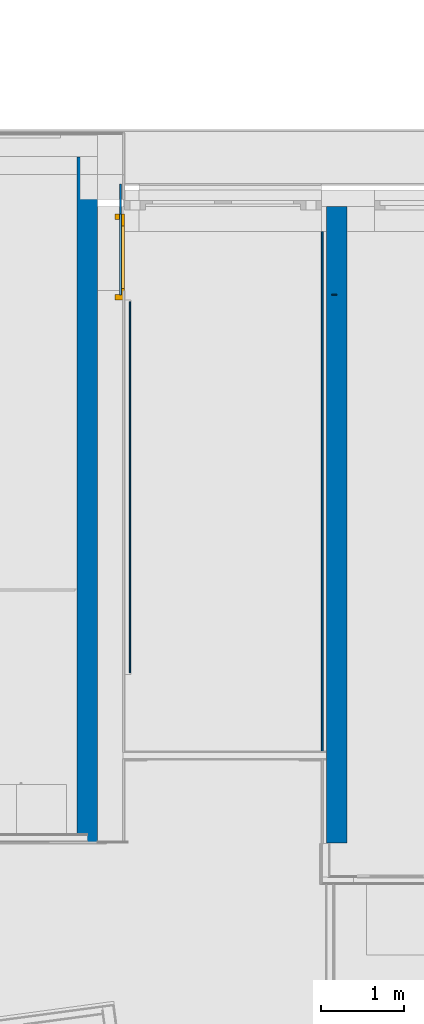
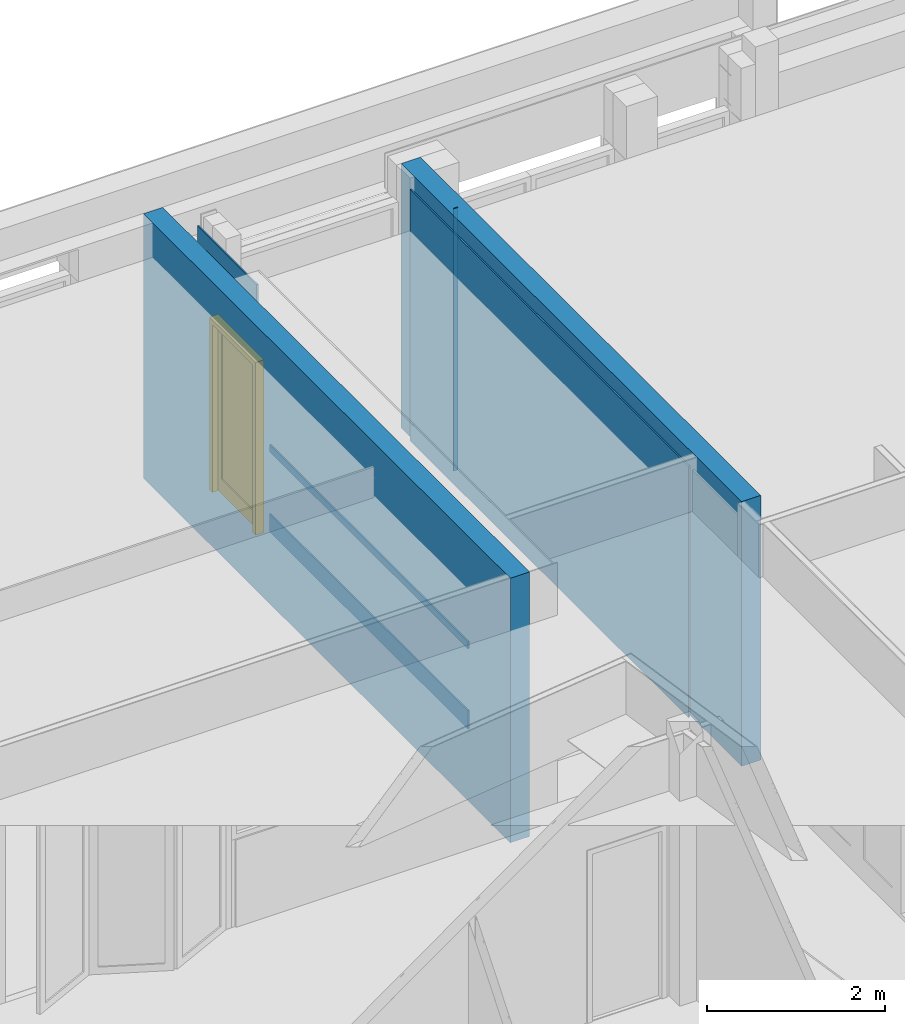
# One storey, part 18 of 167: 7 walls, 1 door, 1 opening.
"""IFC2X3 building model written with IfcOpenShell, lengths in millimetres."""

from ifc_helpers import new_model, entity, si_unit, converted_unit, derived_unit, money_unit, direction, frame, origin_with_axes, place, context, subcontext, project, spatial, open_shell, faceted_brep, surface_model, material, type_object, element, fill, save


model = new_model("IFC2X3")

# Units and contexts
model_context = context("Model", 3, precision=0.01, world=origin_with_axes(), true_north=direction((0.0, 1.0)))
plan_context = context("Plan", 3, precision=0.01, world=origin_with_axes(), true_north=direction((0.0, 1.0)))
body_context = subcontext(model_context, "Body", "Model", "MODEL_VIEW")
ifc_project = project(units=[si_unit("LENGTHUNIT", "METRE", prefix="MILLI"), si_unit("AREAUNIT", "SQUARE_METRE"), si_unit("VOLUMEUNIT", "CUBIC_METRE"), converted_unit("PLANEANGLEUNIT", "DEGREE", entity("IfcPlaneAngleMeasure", 0.0174532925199), si_unit("PLANEANGLEUNIT", "RADIAN"), dimensions=[0, 0, 0, 0, 0, 0, 0]), si_unit("SOLIDANGLEUNIT", "STERADIAN"), money_unit("EUR"), converted_unit("TIMEUNIT", "Year", entity("IfcTimeMeasure", 31556926.0), si_unit("TIMEUNIT", "SECOND"), dimensions=[0, 0, 1, 0, 0, 0, 0]), si_unit("MASSUNIT", "GRAM", prefix="KILO"), si_unit("THERMODYNAMICTEMPERATUREUNIT", "DEGREE_CELSIUS"), si_unit("LUMINOUSINTENSITYUNIT", "LUMEN"), si_unit("ENERGYUNIT", "JOULE", prefix="MEGA"), derived_unit("THERMALCONDUCTANCEUNIT", [(si_unit("POWERUNIT", "WATT"), 1), (si_unit("LENGTHUNIT", "METRE"), -1), (si_unit("THERMODYNAMICTEMPERATUREUNIT", "KELVIN"), -1)]), derived_unit("SPECIFICHEATCAPACITYUNIT", [(si_unit("ENERGYUNIT", "JOULE"), 1), (si_unit("MASSUNIT", "GRAM", prefix="KILO"), -1), (si_unit("THERMODYNAMICTEMPERATUREUNIT", "KELVIN"), -1)]), derived_unit("MASSDENSITYUNIT", [(si_unit("MASSUNIT", "GRAM", prefix="KILO"), 1), (si_unit("VOLUMEUNIT", "CUBIC_METRE"), -1)])], contexts=[model_context, plan_context])

# Site, building, storey
site_placement = place(None, origin_with_axes())
site = spatial("IfcSite", under=ifc_project, at=site_placement, Name="Site", CompositionType="ELEMENT")
building_placement = place(site_placement, origin_with_axes())
building = spatial("IfcBuilding", under=site, at=building_placement, Name="Naam gebouw", CompositionType="ELEMENT")
storey_placement = place(building_placement, origin_with_axes())
storey = spatial("IfcBuildingStorey", under=building, at=storey_placement, Name="Begane grond", CompositionType="ELEMENT", Elevation=0.0)

# Wall
ifc_material_1 = material(Name="_TenW_21_Hout betimmering")
wall_type_1 = type_object("IfcWallType", Name="_TenW_22_Spouwmuur ht-150-kz RC 0 60", PredefinedType="NOTDEFINED")
wall_1_placement = place(storey_placement, frame((24475.0000092, 49800.0, -100.0), z_axis=(0.0, 0.0, 1.0), x_axis=(0.0, -1.0, 0.0)))
element("IfcWall", 1, at=wall_1_placement, inside=storey, type_object=wall_type_1, material=ifc_material_1, Name="21_Wand_Wand-x", context=body_context, shape_type="Brep", body=[
    faceted_brep([(6562.5, -40.0, 3480.00000224), (6562.5, -40.0, 30.0), (300.0, -40.0, 30.0), (300.0, -40.0, 3480.00000224), (6562.5, -60.0, 3480.00000224), (6562.5, -60.0, 30.0), (300.0, -60.0, 30.0), (300.0, -60.0, 3480.00000224)], [[[0, 1, 2, 3]], [[4, 5, 1, 0]], [[5, 6, 2, 1]], [[3, 2, 6, 7]], [[4, 0, 3, 7]], [[7, 6, 5, 4]]]),
])

# Wall, opening, door
wall_2_placement = place(storey_placement, frame((22049.0, 49800.0, -100.0), z_axis=(0.0, 0.0, 1.0), x_axis=(0.0, -1.0, 0.0)))
wall_2 = element("IfcWall", 2, at=wall_2_placement, inside=storey, type_object=wall_type_1, material=ifc_material_1, Name="21_Wand_Wand-x", context=body_context, shape_type="Brep", body=[
    faceted_brep([(90.0, -40.0, 102.0), (1059.97864822, -40.0, 102.0), (1059.97864822, -40.0, 30.0), (0.0, -40.0, 30.0), (0.0, -40.0, 0.0), (-274.0, -40.0, 0.0), (-274.0, -40.0, 3480.00000224), (1059.97864822, -40.0, 3480.00000224), (1059.97864822, -40.0, 2469.0), (90.0, -40.0, 2469.0), (90.0, -60.0, 102.0), (1059.97864822, -60.0, 102.0), (1059.97864822, -60.0, 30.0), (0.0, -60.0, 30.0), (0.0, -60.0, 0.0), (-274.0, -60.0, 0.0), (-274.0, -60.0, 3480.00000224), (1059.97864822, -60.0, 3480.00000224), (1059.97864822, -60.0, 2469.0), (90.0, -60.0, 2469.0)], [[[0, 1, 2, 3, 4, 5, 6, 7, 8, 9]], [[1, 0, 10, 11]], [[1, 11, 12, 2]], [[3, 2, 12, 13]], [[4, 3, 13, 14]], [[4, 14, 15, 5]], [[15, 16, 6, 5]], [[7, 6, 16, 17]], [[18, 8, 7, 17]], [[9, 8, 18, 19]], [[0, 9, 19, 10]], [[19, 18, 17, 16, 15, 14, 13, 12, 11, 10]]]),
])
opening_placement = place(wall_2_placement, frame((607.0, 0.0, 102.0), z_axis=(0.0, 0.0, 1.0), x_axis=(1.0, 0.0, 0.0)))
opening = element("IfcOpeningElement", 3, at=opening_placement, cuts=wall_2, Name="32_Deur_Hi-01", context=body_context, shape_type="Brep", body=[
    faceted_brep([(-517.0, 120.0, 2367.0), (-517.0, 120.0, 0.0), (-517.0, -60.0, 0.0), (-517.0, -60.0, 2367.0), (517.0, 120.0, 2367.0), (517.0, 120.0, 0.0), (517.0, -60.0, 0.0), (517.0, -60.0, 2367.0)], [[[0, 1, 2, 3]], [[0, 4, 5, 1]], [[1, 5, 6, 2]], [[3, 2, 6, 7]], [[4, 0, 3, 7]], [[5, 4, 7, 6]]]),
])
door_style = type_object("IfcDoorStyle", Name="D1 24", ConstructionType="NOTDEFINED", OperationType="SINGLE_SWING_LEFT", ParameterTakesPrecedence=False, Sizeable=False)
door_placement = place(opening_placement, frame((-517.0, 0.0, 0.0), z_axis=(0.0, 0.0, 1.0), x_axis=(1.0, 0.0, 0.0)))
door = element("IfcDoor", 4, at=door_placement, inside=storey, type_object=door_style, Name="32_Deur_Hi-01", ObjectType="DOOR", OverallHeight=2367.0, OverallWidth=1034.0, context=body_context, shape_type="SurfaceModel", body=[
    faceted_brep([(967.0, -40.0, 0.0), (967.0, -114.0, 0.0), (967.0, -114.0, 2300.0), (967.0, -40.0, 2300.0), (992.0, -40.0, 0.0), (992.0, 0.0, 0.0), (1034.0, 0.0, 0.0), (1034.0, -114.0, 0.0), (1034.0, -114.0, 2300.0), (992.0, -40.0, 2300.0), (1034.0, 0.0, 2300.0), (992.0, 0.0, 2300.0)], [[[0, 1, 2, 3]], [[4, 5, 6, 7, 1, 0]], [[1, 7, 8, 2]], [[9, 3, 2, 8, 10, 11]], [[9, 4, 0, 3]], [[11, 5, 4, 9]], [[11, 10, 6, 5]], [[6, 10, 8, 7]]]),
    faceted_brep([(42.0, -40.0, 2300.0), (42.0, 0.0, 2300.0), (0.0, 0.0, 2300.0), (0.0, -114.0, 2300.0), (67.0, -114.0, 2300.0), (67.0, -40.0, 2300.0), (42.0, -40.0, 0.0), (42.0, 0.0, 0.0), (0.0, 0.0, 0.0), (0.0, -114.0, 0.0), (67.0, -114.0, 0.0), (67.0, -40.0, 0.0)], [[[0, 1, 2, 3, 4, 5]], [[0, 6, 7, 1]], [[7, 8, 2, 1]], [[2, 8, 9, 3]], [[3, 9, 10, 4]], [[5, 4, 10, 11]], [[5, 11, 6, 0]], [[6, 11, 10, 9, 8, 7]]]),
    faceted_brep([(992.0, 0.0, 2325.0), (42.0, 0.0, 2325.0), (42.0, 0.0, 2300.0), (0.0, 0.0, 2300.0), (0.0, 0.0, 2367.0), (1034.0, 0.0, 2367.0), (1034.0, 0.0, 2300.0), (992.0, 0.0, 2300.0), (992.0, -40.0, 2325.0), (42.0, -40.0, 2325.0), (42.0, -40.0, 2300.0), (67.0, -40.0, 2300.0), (67.0, -114.0, 2300.0), (0.0, -114.0, 2300.0), (0.0, -114.0, 2367.0), (1034.0, -114.0, 2367.0), (1034.0, -114.0, 2300.0), (992.0, -40.0, 2300.0), (967.0, -114.0, 2300.0), (967.0, -40.0, 2300.0)], [[[0, 1, 2, 3, 4, 5, 6, 7]], [[0, 8, 9, 1]], [[1, 9, 10, 2]], [[10, 11, 12, 13, 3, 2]], [[4, 3, 13, 14]], [[5, 4, 14, 15]], [[6, 5, 15, 16]], [[17, 7, 6, 16, 18, 19]], [[7, 17, 8, 0]], [[10, 9, 8, 17, 19, 11]], [[19, 18, 12, 11]], [[12, 18, 16, 15, 14, 13]]]),
    faceted_brep([(42.0, 0.0, 200.0), (142.0, 0.0, 200.0), (142.0, -40.0, 200.0), (42.0, -40.0, 200.0), (42.0, 0.0, 2225.0), (142.0, 0.0, 2225.0), (142.0, -40.0, 2225.0), (42.0, -40.0, 2225.0)], [[[0, 1, 2, 3]], [[0, 4, 5, 1]], [[1, 5, 6, 2]], [[3, 2, 6, 7]], [[4, 0, 3, 7]], [[5, 4, 7, 6]]]),
    faceted_brep([(992.0, 0.0, 200.0), (992.0, 0.0, 2225.0), (992.0, -40.0, 2225.0), (992.0, -40.0, 200.0), (892.0, 0.0, 200.0), (892.0, 0.0, 2225.0), (892.0, -40.0, 2225.0), (892.0, -40.0, 200.0)], [[[0, 1, 2, 3]], [[0, 4, 5, 1]], [[1, 5, 6, 2]], [[3, 2, 6, 7]], [[4, 0, 3, 7]], [[5, 4, 7, 6]]]),
    faceted_brep([(42.0, 0.0, 0.0), (992.0, 0.0, 0.0), (992.0, -40.0, 0.0), (42.0, -40.0, 0.0), (42.0, 0.0, 200.0), (142.0, 0.0, 200.0), (892.0, 0.0, 200.0), (992.0, 0.0, 200.0), (992.0, -40.0, 200.0), (892.0, -40.0, 200.0), (142.0, -40.0, 200.0), (42.0, -40.0, 200.0)], [[[0, 1, 2, 3]], [[0, 4, 5, 6, 7, 1]], [[1, 7, 8, 2]], [[3, 2, 8, 9, 10, 11]], [[4, 0, 3, 11]], [[5, 4, 11, 10]], [[6, 5, 10, 9]], [[7, 6, 9, 8]]]),
    faceted_brep([(42.0, 0.0, 2325.0), (42.0, 0.0, 2225.0), (42.0, -40.0, 2225.0), (42.0, -40.0, 2325.0), (992.0, 0.0, 2325.0), (992.0, 0.0, 2225.0), (892.0, 0.0, 2225.0), (142.0, 0.0, 2225.0), (142.0, -40.0, 2225.0), (892.0, -40.0, 2225.0), (992.0, -40.0, 2225.0), (992.0, -40.0, 2325.0)], [[[0, 1, 2, 3]], [[0, 4, 5, 6, 7, 1]], [[1, 7, 8, 2]], [[3, 2, 8, 9, 10, 11]], [[4, 0, 3, 11]], [[5, 4, 11, 10]], [[6, 5, 10, 9]], [[7, 6, 9, 8]]]),
    surface_model("IfcShellBasedSurfaceModel", [(142.0, -14.0, 200.0), (142.0, -14.0, 2225.0), (892.0, -14.0, 2225.0), (892.0, -14.0, 200.0)], [open_shell([[[0, 1, 2, 3]]])]),
    surface_model("IfcShellBasedSurfaceModel", [(142.0, -26.0, 200.0), (892.0, -26.0, 200.0), (892.0, -26.0, 2225.0), (142.0, -26.0, 2225.0)], [open_shell([[[0, 1, 2, 3]]])]),
])
fill(opening, door)

# Walls
ifc_material_2 = material(Name="Beton gewapend C")
wall_type_2 = type_object("IfcWallType", Name="Betonwand 250 250", PredefinedType="NOTDEFINED")
wall_3_placement = place(storey_placement, frame((21600.0, 50395.0, -100.0), z_axis=(0.0, 0.0, 1.0), x_axis=(0.0, -1.0, 0.0)))
element("IfcWall", 5, at=wall_3_placement, inside=storey, type_object=wall_type_2, material=ifc_material_2, Name="22_Wand_Wand-x", context=body_context, shape_type="Brep", body=[
    faceted_brep([(0.0, 125.0, 0.0), (8245.0, 125.0, 0.0), (8245.0, -125.0, 0.0), (0.0, -125.0, 0.0), (0.0, 125.0, 3629.99999752), (8245.0, 125.0, 3629.99999752), (8245.0, -125.0, 3629.99999752), (0.0, -125.0, 3629.99999752)], [[[0, 1, 2, 3]], [[4, 5, 1, 0]], [[2, 1, 5, 6]], [[3, 2, 6, 7]], [[4, 0, 3, 7]], [[7, 6, 5, 4]]]),
])
wall_4_placement = place(storey_placement, frame((24600.0, 49800.0, -100.0), z_axis=(0.0, 0.0, 1.0), x_axis=(0.0, -1.0, 0.0)))
element("IfcWall", 6, at=wall_4_placement, inside=storey, type_object=wall_type_2, material=ifc_material_2, Name="22_Wand_Wand-x", context=body_context, shape_type="Brep", body=[
    faceted_brep([(0.0, 125.0, 0.0), (7651.0, 125.0, 0.0), (7651.0, -125.0, 0.0), (0.0, -125.0, 0.0), (0.0, 125.0, 3629.99999752), (7651.0, 125.0, 3629.99999752), (7651.0, -125.0, 3629.99999752), (0.0, -125.0, 3629.99999752)], [[[0, 1, 2, 3]], [[4, 5, 1, 0]], [[2, 1, 5, 6]], [[3, 2, 6, 7]], [[4, 0, 3, 7]], [[7, 6, 5, 4]]]),
])
ifc_material_3 = material(Name="Gipsplaat")
wall_type_3 = type_object("IfcWallType", Name="Gipsplaat 12", PredefinedType="NOTDEFINED")
wall_5_placement = place(storey_placement, frame((24540.0, 48734.9731416, -100.0), z_axis=(0.0, 0.0, 1.0), x_axis=(1.0, 0.0, 0.0)))
element("IfcWall", 7, at=wall_5_placement, inside=storey, type_object=wall_type_3, material=ifc_material_3, Name="21_Wand_Wand-x", context=body_context, shape_type="Brep", body=[
    faceted_brep([(0.0, 13.0, 30.0), (0.0, 13.0, 3630.0), (60.0, 13.0, 3630.0), (60.0, 13.0, 30.0), (0.0, 0.999999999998, 30.0), (0.0, 0.999999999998, 3630.0), (60.0, 0.999999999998, 3630.0), (60.0, 0.999999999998, 30.0)], [[[0, 1, 2, 3]], [[4, 5, 1, 0]], [[5, 6, 2, 1]], [[3, 2, 6, 7]], [[4, 0, 3, 7]], [[7, 6, 5, 4]]]),
])
ifc_material_4 = material(Name="Hout - Spaanplaat")
wall_type_4 = type_object("IfcWallType", Name="Hout - Spaanplaat 20", PredefinedType="NOTDEFINED")
wall_6_placement = place(storey_placement, frame((22125.0, 44196.0, 0.0), z_axis=(0.0, 0.0, 1.0), x_axis=(0.0, 1.0, 0.0)))
element("IfcWall", 8, at=wall_6_placement, inside=storey, type_object=wall_type_4, material=ifc_material_4, Name="21_Wand_Wand-x", context=body_context, shape_type="Brep", body=[
    faceted_brep([(0.0, 20.0, 0.0), (4460.0, 20.0, 0.0), (4460.0, 0.0, 0.0), (0.0, 0.0, 0.0), (0.0, 20.0, 250.0), (4460.0, 20.0, 250.0), (4460.0, 0.0, 250.0), (0.0, 0.0, 250.0)], [[[0, 1, 2, 3]], [[4, 5, 1, 0]], [[2, 1, 5, 6]], [[3, 2, 6, 7]], [[4, 0, 3, 7]], [[7, 6, 5, 4]]]),
])
wall_7_placement = place(storey_placement, frame((22125.0, 44196.0, 1100.0), z_axis=(0.0, 0.0, 1.0), x_axis=(0.0, 1.0, 0.0)))
element("IfcWall", 9, at=wall_7_placement, inside=storey, type_object=wall_type_4, material=ifc_material_4, Name="21_Wand_Wand-x", context=body_context, shape_type="Brep", body=[
    faceted_brep([(0.0, 20.0, 0.0), (4460.0, 20.0, 0.0), (4460.0, 0.0, 0.0), (0.0, 0.0, 0.0), (0.0, 20.0, 100.0), (4460.0, 20.0, 100.0), (4460.0, 0.0, 100.0), (0.0, 0.0, 100.0)], [[[0, 1, 2, 3]], [[4, 5, 1, 0]], [[2, 1, 5, 6]], [[3, 2, 6, 7]], [[4, 0, 3, 7]], [[7, 6, 5, 4]]]),
])

save(model, "model.ifc")
